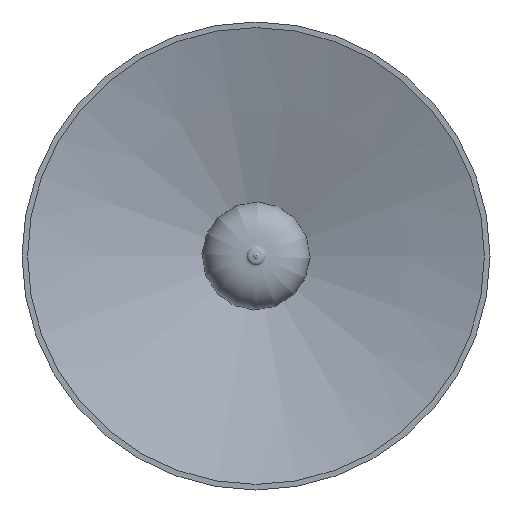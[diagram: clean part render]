
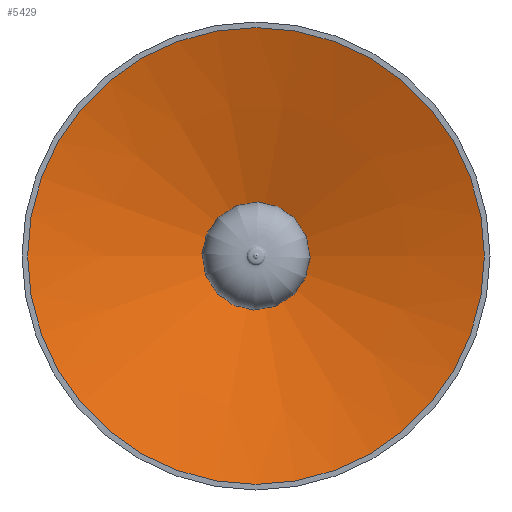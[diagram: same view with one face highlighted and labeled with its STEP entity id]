
A CAD part, front view. The second image highlights one B-rep face of the part: STEP entity #5429.
In plain terms, the highlighted conical face has half-angle 71.565 degrees and reference radius 65.934 mm.
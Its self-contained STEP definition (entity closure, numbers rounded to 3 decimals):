
#1688=CONICAL_SURFACE('',#5961,65.934,1.249);
#2191=FACE_OUTER_BOUND('',#2423,.T.);
#2423=EDGE_LOOP('',(#4321,#4322,#4323));
#2731=CIRCLE('',#5962,129.338);
#2963=LINE('',#9052,#3128);
#3128=VECTOR('',#6960,66.25);
#3327=VERTEX_POINT('',#9050);
#3328=VERTEX_POINT('',#9051);
#3717=EDGE_CURVE('',#3327,#3328,#2963,.T.);
#3718=EDGE_CURVE('',#3328,#3328,#2731,.T.);
#4321=ORIENTED_EDGE('',*,*,#3717,.T.);
#4322=ORIENTED_EDGE('',*,*,#3718,.F.);
#4323=ORIENTED_EDGE('',*,*,#3717,.F.);
#5429=ADVANCED_FACE('',(#2191),#1688,.F.);
#5961=AXIS2_PLACEMENT_3D('',#9049,#6958,#6959);
#5962=AXIS2_PLACEMENT_3D('',#9053,#6961,#6962);
#6958=DIRECTION('center_axis',(0.,-1.,0.));
#6959=DIRECTION('ref_axis',(1.,0.,0.));
#6960=DIRECTION('',(-0.949,-0.316,0.));
#6961=DIRECTION('center_axis',(0.,1.,0.));
#6962=DIRECTION('ref_axis',(1.,0.,0.));
#9049=CARTESIAN_POINT('Origin',(0.,21.135,0.));
#9050=CARTESIAN_POINT('',(0.,43.113,0.));
#9051=CARTESIAN_POINT('',(-129.338,0.,0.));
#9052=CARTESIAN_POINT('',(-65.934,21.135,0.));
#9053=CARTESIAN_POINT('Origin',(0.,0.,0.));
